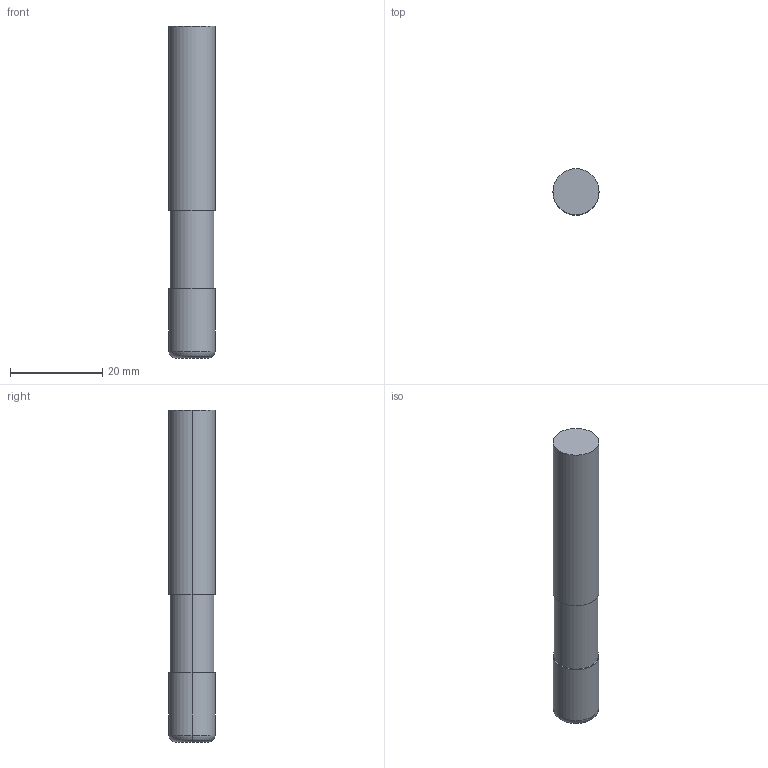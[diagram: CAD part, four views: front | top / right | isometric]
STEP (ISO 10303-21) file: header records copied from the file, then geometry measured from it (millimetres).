
FILE_DESCRIPTION(('STEP AP214'),'1');
FILE_NAME('cctmp_B914752B-F1E9-454F-9043-9019304D623B_2020_10_01_07_21_49_0875..stp','2020-10-01T05:21:49',('Meusburger Georg GmbH & Co KG'),('CADClick - www.CADClick.com'),'Spatial InterOp 3D',' ','unknown authorization');
FILE_SCHEMA(('AUTOMOTIVE_DESIGN { 1 0 10303 214 1 1 1 1 }'));
Length unit declared in the file: millimetre
Products named in the file (1): WZF17576_10_1.5
Bounding box: 10 x 10 x 72 mm (x, y, z)
Volume: 5510.5 mm3; surface area: 2386.4 mm2
Topology: 1 solids, 1 shells, 12 faces, 22 edges, 14 vertices
Faces by surface type: cylinder 6, plane 4, torus 2
Entity records: 426 total; most frequent: DIRECTION 64, CARTESIAN_POINT 49, ORIENTED_EDGE 44, AXIS2_PLACEMENT_3D 29, EDGE_CURVE 22, CIRCLE 16, EDGE_LOOP 14, VERTEX_POINT 14
